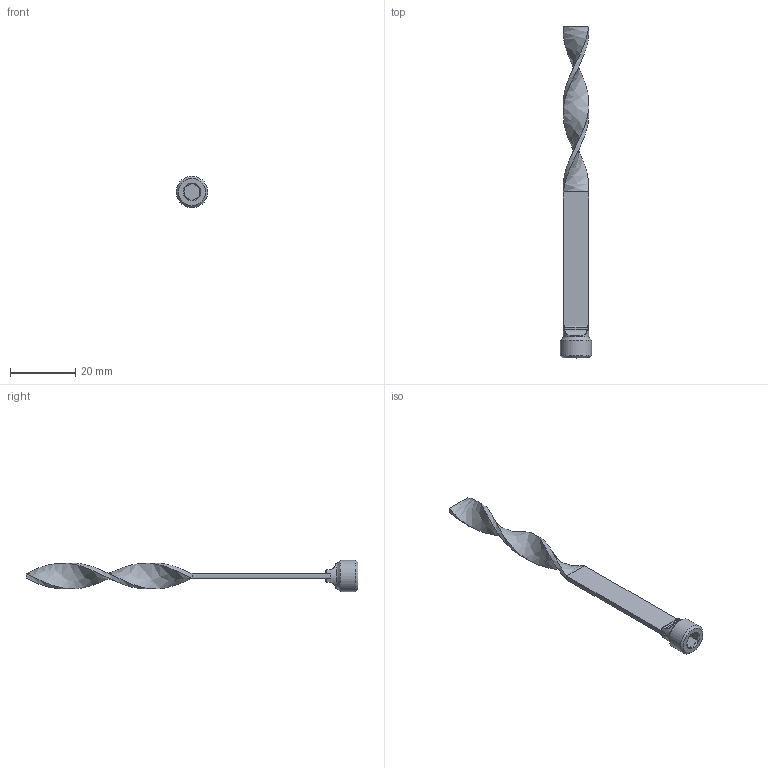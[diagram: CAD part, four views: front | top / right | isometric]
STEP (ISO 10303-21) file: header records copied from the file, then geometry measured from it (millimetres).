
FILE_DESCRIPTION(/* description */ (''),/* implementation_level */ '2;1');
FILE_NAME(/* name */ 'C:/Users/drich/Desktop/TB18X4 v1.step',/* time_stamp */ '2020-01-14T09:03:46-06:00',/* author */ (''),/* organization */ (''),/* preprocessor_version */ 'ST-DEVELOPER v18',/* originating_system */ 'Autodesk Translation Framework v8.12.0.6',/* authorisation */ '');
FILE_SCHEMA (('AUTOMOTIVE_DESIGN { 1 0 10303 214 3 1 1 }'));
Length unit declared in the file: inch
Products named in the file (1): TB18X4
Bounding box: 9.62 x 101.6 x 9.62 mm (x, y, z)
Volume: 1499.1 mm3; surface area: 2199.1 mm2
Topology: 2 solids, 2 shells, 41 faces, 112 edges, 76 vertices
Faces by surface type: plane 21, cylinder 8, torus 5, bspline 4, cone 3
Full cylindrical faces by diameter (mm): 7.772 x1, 9.621 x1
Entity records: 1614 total; most frequent: CARTESIAN_POINT 582, ORIENTED_EDGE 224, DIRECTION 187, EDGE_CURVE 112, VERTEX_POINT 76, AXIS2_PLACEMENT_3D 69, LINE 49, VECTOR 49
